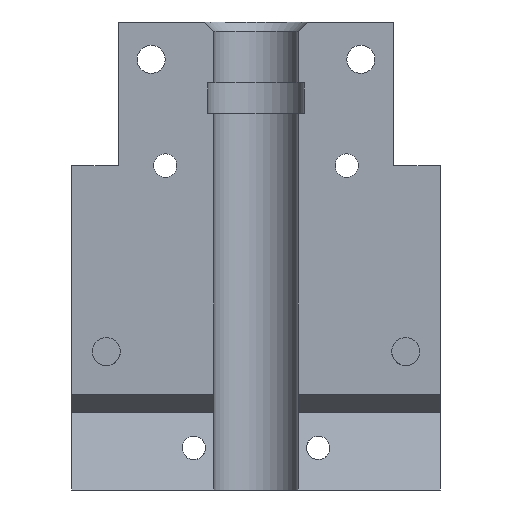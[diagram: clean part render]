
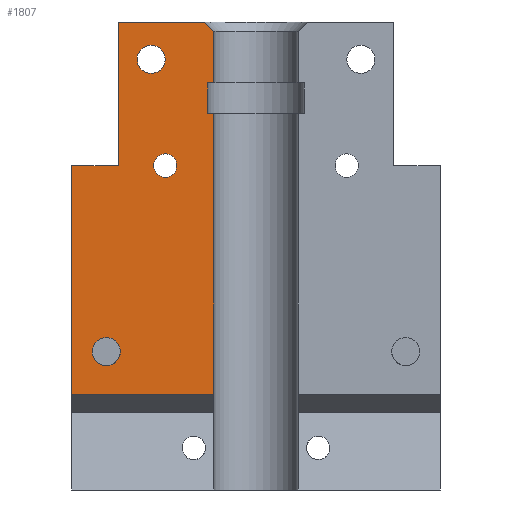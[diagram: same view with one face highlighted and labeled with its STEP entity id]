
A CAD part, front view. The second image highlights one B-rep face of the part: STEP entity #1807.
In plain terms, the highlighted planar face has unit normal (0, -1, 0).
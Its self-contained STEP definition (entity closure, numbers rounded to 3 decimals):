
#22 = DIRECTION ( 'NONE',  ( 0., 0., 1. ) ) ;
#33 = ORIENTED_EDGE ( 'NONE', *, *, #2508, .T. ) ;
#44 = EDGE_CURVE ( 'NONE', #2160, #599, #952, .T. ) ;
#70 = ORIENTED_EDGE ( 'NONE', *, *, #2546, .T. ) ;
#73 = VERTEX_POINT ( 'NONE', #226 ) ;
#92 = CARTESIAN_POINT ( 'NONE',  ( -16., -3.6, 14.782 ) ) ;
#109 = DIRECTION ( 'NONE',  ( 0., 0., -1. ) ) ;
#154 = VECTOR ( 'NONE', #3049, 1000. ) ;
#158 = DIRECTION ( 'NONE',  ( -1., 0., 0. ) ) ;
#168 = ORIENTED_EDGE ( 'NONE', *, *, #1175, .T. ) ;
#173 = ORIENTED_EDGE ( 'NONE', *, *, #44, .F. ) ;
#226 = CARTESIAN_POINT ( 'NONE',  ( -5.15, -3.6, 43.5 ) ) ;
#284 = AXIS2_PLACEMENT_3D ( 'NONE', #92, #1312, #1030 ) ;
#296 = VECTOR ( 'NONE', #2185, 1000. ) ;
#306 = VERTEX_POINT ( 'NONE', #1570 ) ;
#307 = EDGE_CURVE ( 'NONE', #1042, #717, #1927, .T. ) ;
#311 = DIRECTION ( 'NONE',  ( 1., 0., 0. ) ) ;
#333 = CARTESIAN_POINT ( 'NONE',  ( -14.7, -3.6, 34.659 ) ) ;
#349 = FACE_BOUND ( 'NONE', #370, .T. ) ;
#370 = EDGE_LOOP ( 'NONE', ( #1141, #70 ) ) ;
#376 = DIRECTION ( 'NONE',  ( 0., 0., 1. ) ) ;
#380 = CARTESIAN_POINT ( 'NONE',  ( -4.5, -3.6, 50. ) ) ;
#427 = VERTEX_POINT ( 'NONE', #2338 ) ;
#446 = ORIENTED_EDGE ( 'NONE', *, *, #1920, .F. ) ;
#498 = CARTESIAN_POINT ( 'NONE',  ( -14.7, -3.6, 34.659 ) ) ;
#544 = CARTESIAN_POINT ( 'NONE',  ( -19.7, -3.6, 50. ) ) ;
#593 = ORIENTED_EDGE ( 'NONE', *, *, #601, .F. ) ;
#599 = VERTEX_POINT ( 'NONE', #983 ) ;
#601 = EDGE_CURVE ( 'NONE', #73, #2160, #1149, .T. ) ;
#641 = LINE ( 'NONE', #380, #2343 ) ;
#661 = EDGE_CURVE ( 'NONE', #427, #2272, #2570, .T. ) ;
#663 = CARTESIAN_POINT ( 'NONE',  ( -14.7, -3.6, 50. ) ) ;
#687 = DIRECTION ( 'NONE',  ( 1., 0., 0. ) ) ;
#714 = CARTESIAN_POINT ( 'NONE',  ( -12.7, -3.6, 46. ) ) ;
#717 = VERTEX_POINT ( 'NONE', #2890 ) ;
#765 = ORIENTED_EDGE ( 'NONE', *, *, #2841, .F. ) ;
#795 = AXIS2_PLACEMENT_3D ( 'NONE', #2083, #1373, #1635 ) ;
#806 = VERTEX_POINT ( 'NONE', #1222 ) ;
#853 = AXIS2_PLACEMENT_3D ( 'NONE', #1810, #2510, #376 ) ;
#885 = LINE ( 'NONE', #2590, #1595 ) ;
#952 = LINE ( 'NONE', #1637, #1194 ) ;
#967 = CARTESIAN_POINT ( 'NONE',  ( -16., -3.6, 13.282 ) ) ;
#976 = CARTESIAN_POINT ( 'NONE',  ( -4.5, -3.6, 43.5 ) ) ;
#983 = CARTESIAN_POINT ( 'NONE',  ( -4.5, -3.6, 40.2 ) ) ;
#1006 = CARTESIAN_POINT ( 'NONE',  ( -11.2, -3.6, 46. ) ) ;
#1009 = CARTESIAN_POINT ( 'NONE',  ( -19.7, -3.6, 43.5 ) ) ;
#1019 = ORIENTED_EDGE ( 'NONE', *, *, #2344, .F. ) ;
#1030 = DIRECTION ( 'NONE',  ( 0., 0., -1. ) ) ;
#1042 = VERTEX_POINT ( 'NONE', #2325 ) ;
#1072 = LINE ( 'NONE', #1457, #2031 ) ;
#1086 = AXIS2_PLACEMENT_3D ( 'NONE', #1342, #2310, #1109 ) ;
#1109 = DIRECTION ( 'NONE',  ( 0., 0., 1. ) ) ;
#1119 = VERTEX_POINT ( 'NONE', #3087 ) ;
#1120 = DIRECTION ( 'NONE',  ( -0.707, 0., 0.707 ) ) ;
#1126 = ORIENTED_EDGE ( 'NONE', *, *, #2696, .F. ) ;
#1141 = ORIENTED_EDGE ( 'NONE', *, *, #1658, .T. ) ;
#1143 = CARTESIAN_POINT ( 'NONE',  ( -19.7, -3.6, 50. ) ) ;
#1149 = LINE ( 'NONE', #1462, #1415 ) ;
#1175 = EDGE_CURVE ( 'NONE', #806, #1178, #2868, .T. ) ;
#1178 = VERTEX_POINT ( 'NONE', #1912 ) ;
#1194 = VECTOR ( 'NONE', #1666, 1000. ) ;
#1212 = DIRECTION ( 'NONE',  ( 0., 0., -1. ) ) ;
#1222 = CARTESIAN_POINT ( 'NONE',  ( -19.7, -3.6, 34.659 ) ) ;
#1232 = LINE ( 'NONE', #333, #2142 ) ;
#1234 = ORIENTED_EDGE ( 'NONE', *, *, #307, .T. ) ;
#1309 = VERTEX_POINT ( 'NONE', #967 ) ;
#1312 = DIRECTION ( 'NONE',  ( 0., -1., 0. ) ) ;
#1342 = CARTESIAN_POINT ( 'NONE',  ( -11.2, -3.6, 46. ) ) ;
#1373 = DIRECTION ( 'NONE',  ( 0., 1., 0. ) ) ;
#1381 = CIRCLE ( 'NONE', #1086, 1.5 ) ;
#1415 = VECTOR ( 'NONE', #1212, 1000. ) ;
#1436 = VERTEX_POINT ( 'NONE', #663 ) ;
#1457 = CARTESIAN_POINT ( 'NONE',  ( -19.7, -3.6, 50. ) ) ;
#1462 = CARTESIAN_POINT ( 'NONE',  ( -5.15, -3.6, 50. ) ) ;
#1523 = ORIENTED_EDGE ( 'NONE', *, *, #661, .F. ) ;
#1534 = FACE_OUTER_BOUND ( 'NONE', #2843, .T. ) ;
#1570 = CARTESIAN_POINT ( 'NONE',  ( -16., -3.6, 16.282 ) ) ;
#1572 = AXIS2_PLACEMENT_3D ( 'NONE', #2513, #2993, #109 ) ;
#1574 = FACE_BOUND ( 'NONE', #1962, .T. ) ;
#1587 = ORIENTED_EDGE ( 'NONE', *, *, #2032, .F. ) ;
#1595 = VECTOR ( 'NONE', #158, 1000. ) ;
#1596 = CARTESIAN_POINT ( 'NONE',  ( -5.5, -3.6, 50. ) ) ;
#1604 = CARTESIAN_POINT ( 'NONE',  ( -5.5, -3.6, 50. ) ) ;
#1608 = AXIS2_PLACEMENT_3D ( 'NONE', #1006, #1743, #22 ) ;
#1622 = CARTESIAN_POINT ( 'NONE',  ( -9.7, -3.6, 46. ) ) ;
#1635 = DIRECTION ( 'NONE',  ( 0., 0., 1. ) ) ;
#1637 = CARTESIAN_POINT ( 'NONE',  ( -19.7, -3.6, 40.2 ) ) ;
#1658 = EDGE_CURVE ( 'NONE', #2719, #2465, #2057, .T. ) ;
#1666 = DIRECTION ( 'NONE',  ( 1., 0., 0. ) ) ;
#1693 = LINE ( 'NONE', #498, #296 ) ;
#1703 = ORIENTED_EDGE ( 'NONE', *, *, #2770, .T. ) ;
#1737 = CARTESIAN_POINT ( 'NONE',  ( -14.7, -3.6, 34.659 ) ) ;
#1743 = DIRECTION ( 'NONE',  ( 0., 1., 0. ) ) ;
#1807 = ADVANCED_FACE ( 'NONE', ( #349, #1574, #2207, #1534 ), #2494, .F. ) ;
#1810 = CARTESIAN_POINT ( 'NONE',  ( -9.7, -3.6, 34.659 ) ) ;
#1852 = CIRCLE ( 'NONE', #1572, 1.5 ) ;
#1891 = CIRCLE ( 'NONE', #284, 1.5 ) ;
#1912 = CARTESIAN_POINT ( 'NONE',  ( -19.7, -3.6, 10.242 ) ) ;
#1920 = EDGE_CURVE ( 'NONE', #599, #1119, #641, .T. ) ;
#1927 = CIRCLE ( 'NONE', #853, 1.25 ) ;
#1933 = VECTOR ( 'NONE', #1120, 1000. ) ;
#1962 = EDGE_LOOP ( 'NONE', ( #1019, #2869 ) ) ;
#1965 = ORIENTED_EDGE ( 'NONE', *, *, #2530, .T. ) ;
#1976 = EDGE_LOOP ( 'NONE', ( #1234, #1965 ) ) ;
#2025 = DIRECTION ( 'NONE',  ( 0., 1., 0. ) ) ;
#2031 = VECTOR ( 'NONE', #687, 1000. ) ;
#2032 = EDGE_CURVE ( 'NONE', #1119, #1178, #885, .T. ) ;
#2057 = CIRCLE ( 'NONE', #1608, 1.5 ) ;
#2071 = LINE ( 'NONE', #1009, #2919 ) ;
#2076 = LINE ( 'NONE', #1604, #1933 ) ;
#2083 = CARTESIAN_POINT ( 'NONE',  ( -9.7, -3.6, 34.659 ) ) ;
#2142 = VECTOR ( 'NONE', #2711, 1000. ) ;
#2160 = VERTEX_POINT ( 'NONE', #2860 ) ;
#2185 = DIRECTION ( 'NONE',  ( 0., 0., 1. ) ) ;
#2193 = CARTESIAN_POINT ( 'NONE',  ( -4.5, -3.6, 50. ) ) ;
#2207 = FACE_BOUND ( 'NONE', #1976, .T. ) ;
#2272 = VERTEX_POINT ( 'NONE', #976 ) ;
#2285 = VERTEX_POINT ( 'NONE', #1737 ) ;
#2310 = DIRECTION ( 'NONE',  ( 0., 1., 0. ) ) ;
#2324 = CIRCLE ( 'NONE', #795, 1.25 ) ;
#2325 = CARTESIAN_POINT ( 'NONE',  ( -9.7, -3.6, 35.909 ) ) ;
#2335 = AXIS2_PLACEMENT_3D ( 'NONE', #544, #2025, #2974 ) ;
#2338 = CARTESIAN_POINT ( 'NONE',  ( -4.5, -3.6, 49. ) ) ;
#2343 = VECTOR ( 'NONE', #2517, 1000. ) ;
#2344 = EDGE_CURVE ( 'NONE', #1309, #306, #1852, .T. ) ;
#2465 = VERTEX_POINT ( 'NONE', #1622 ) ;
#2494 = PLANE ( 'NONE',  #2335 ) ;
#2508 = EDGE_CURVE ( 'NONE', #427, #2559, #2076, .T. ) ;
#2510 = DIRECTION ( 'NONE',  ( 0., 1., 0. ) ) ;
#2513 = CARTESIAN_POINT ( 'NONE',  ( -16., -3.6, 14.782 ) ) ;
#2517 = DIRECTION ( 'NONE',  ( 0., 0., -1. ) ) ;
#2530 = EDGE_CURVE ( 'NONE', #717, #1042, #2324, .T. ) ;
#2546 = EDGE_CURVE ( 'NONE', #2465, #2719, #1381, .T. ) ;
#2559 = VERTEX_POINT ( 'NONE', #1596 ) ;
#2570 = LINE ( 'NONE', #2193, #2874 ) ;
#2590 = CARTESIAN_POINT ( 'NONE',  ( 19.7, -3.6, 10.242 ) ) ;
#2696 = EDGE_CURVE ( 'NONE', #2285, #1436, #1693, .T. ) ;
#2711 = DIRECTION ( 'NONE',  ( 1., 0., 0. ) ) ;
#2719 = VERTEX_POINT ( 'NONE', #714 ) ;
#2770 = EDGE_CURVE ( 'NONE', #73, #2272, #2071, .T. ) ;
#2841 = EDGE_CURVE ( 'NONE', #806, #2285, #1232, .T. ) ;
#2843 = EDGE_LOOP ( 'NONE', ( #1523, #33, #2949, #1126, #765, #168, #1587, #446, #173, #593, #1703 ) ) ;
#2860 = CARTESIAN_POINT ( 'NONE',  ( -5.15, -3.6, 40.2 ) ) ;
#2868 = LINE ( 'NONE', #1143, #154 ) ;
#2869 = ORIENTED_EDGE ( 'NONE', *, *, #2903, .F. ) ;
#2874 = VECTOR ( 'NONE', #2902, 1000. ) ;
#2890 = CARTESIAN_POINT ( 'NONE',  ( -9.7, -3.6, 33.409 ) ) ;
#2902 = DIRECTION ( 'NONE',  ( 0., 0., -1. ) ) ;
#2903 = EDGE_CURVE ( 'NONE', #306, #1309, #1891, .T. ) ;
#2919 = VECTOR ( 'NONE', #311, 1000. ) ;
#2949 = ORIENTED_EDGE ( 'NONE', *, *, #3048, .F. ) ;
#2974 = DIRECTION ( 'NONE',  ( 0., 0., 1. ) ) ;
#2993 = DIRECTION ( 'NONE',  ( 0., -1., 0. ) ) ;
#3048 = EDGE_CURVE ( 'NONE', #1436, #2559, #1072, .T. ) ;
#3049 = DIRECTION ( 'NONE',  ( 0., 0., -1. ) ) ;
#3087 = CARTESIAN_POINT ( 'NONE',  ( -4.5, -3.6, 10.242 ) ) ;
